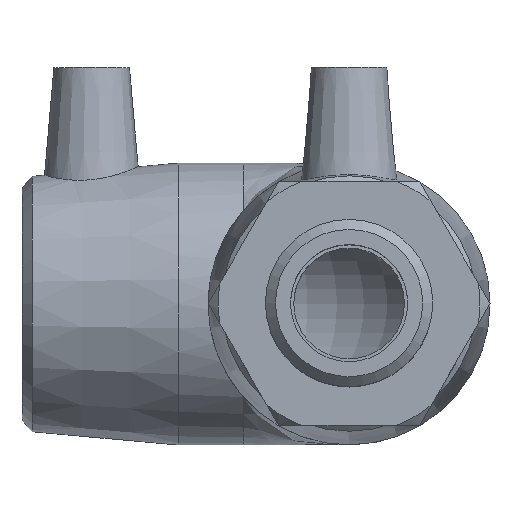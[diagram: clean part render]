
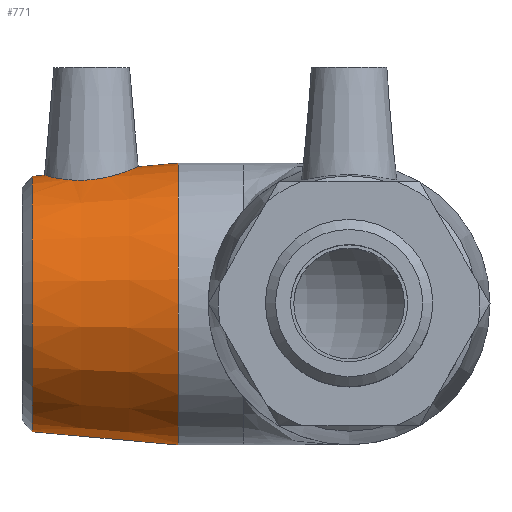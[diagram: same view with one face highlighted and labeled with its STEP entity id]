
A CAD part, top view. The second image highlights one B-rep face of the part: STEP entity #771.
In plain terms, the highlighted conical face has half-angle 5.161 degrees and reference radius 26.6 mm.
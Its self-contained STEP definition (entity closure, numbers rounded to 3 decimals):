
#17=B_SPLINE_CURVE_WITH_KNOTS('',3,(#1342,#1343,#1344,#1345,#1346,#1347,
#1348,#1349,#1350,#1351,#1352,#1353,#1354,#1355,#1356,#1357,#1358,#1359,
#1360,#1361,#1362,#1363,#1364,#1365,#1366,#1367,#1368,#1369,#1370,#1371,
#1372,#1373,#1374,#1375),.UNSPECIFIED.,.T.,.F.,(4,2,2,2,2,2,2,2,2,2,2,2,
2,2,2,2,4),(0.,0.346,0.692,1.041,1.389,
1.738,2.086,2.432,2.778,3.15,
3.522,3.885,4.248,4.611,4.974,
5.346,5.717),.UNSPECIFIED.);
#123=FACE_BOUND('',#248,.T.);
#124=FACE_BOUND('',#249,.T.);
#180=FACE_OUTER_BOUND('',#247,.T.);
#247=EDGE_LOOP('',(#642));
#248=EDGE_LOOP('',(#643));
#249=EDGE_LOOP('',(#644));
#333=CIRCLE('',#854,25.38);
#334=CIRCLE('',#856,28.);
#407=VERTEX_POINT('',#1336);
#408=VERTEX_POINT('',#1339);
#409=VERTEX_POINT('',#1341);
#501=EDGE_CURVE('',#407,#407,#333,.T.);
#502=EDGE_CURVE('',#408,#408,#334,.T.);
#503=EDGE_CURVE('',#409,#409,#17,.T.);
#642=ORIENTED_EDGE('',*,*,#502,.F.);
#643=ORIENTED_EDGE('',*,*,#503,.T.);
#644=ORIENTED_EDGE('',*,*,#501,.F.);
#738=CONICAL_SURFACE('',#855,26.6,5.161);
#771=ADVANCED_FACE('',(#180,#123,#124),#738,.T.);
#854=AXIS2_PLACEMENT_3D('',#1337,#1028,#1029);
#855=AXIS2_PLACEMENT_3D('',#1338,#1030,#1031);
#856=AXIS2_PLACEMENT_3D('',#1340,#1032,#1033);
#1028=DIRECTION('center_axis',(-1.,0.,0.));
#1029=DIRECTION('ref_axis',(0.,-1.,0.));
#1030=DIRECTION('center_axis',(1.,0.,0.));
#1031=DIRECTION('ref_axis',(0.,1.,0.));
#1032=DIRECTION('center_axis',(1.,0.,0.));
#1033=DIRECTION('ref_axis',(0.,0.,-1.));
#1336=CARTESIAN_POINT('',(-63.008,25.38,0.));
#1337=CARTESIAN_POINT('Origin',(-63.008,0.,0.));
#1338=CARTESIAN_POINT('Origin',(-49.5,0.,0.));
#1339=CARTESIAN_POINT('',(-34.,28.,0.));
#1340=CARTESIAN_POINT('Origin',(-34.,0.,0.));
#1341=CARTESIAN_POINT('',(-51.525,24.671,9.446));
#1342=CARTESIAN_POINT('Ctrl Pts',(-51.525,24.671,9.446));
#1343=CARTESIAN_POINT('Ctrl Pts',(-52.673,24.574,9.409));
#1344=CARTESIAN_POINT('Ctrl Pts',(-53.892,24.563,9.139));
#1345=CARTESIAN_POINT('Ctrl Pts',(-56.115,24.703,8.134));
#1346=CARTESIAN_POINT('Ctrl Pts',(-57.12,24.847,7.399));
#1347=CARTESIAN_POINT('Ctrl Pts',(-58.703,25.137,5.734));
#1348=CARTESIAN_POINT('Ctrl Pts',(-59.389,25.302,4.687));
#1349=CARTESIAN_POINT('Ctrl Pts',(-60.298,25.538,2.401));
#1350=CARTESIAN_POINT('Ctrl Pts',(-60.522,25.604,1.162));
#1351=CARTESIAN_POINT('Ctrl Pts',(-60.522,25.604,-1.162));
#1352=CARTESIAN_POINT('Ctrl Pts',(-60.298,25.538,-2.401));
#1353=CARTESIAN_POINT('Ctrl Pts',(-59.389,25.302,-4.687));
#1354=CARTESIAN_POINT('Ctrl Pts',(-58.703,25.137,-5.734));
#1355=CARTESIAN_POINT('Ctrl Pts',(-57.12,24.847,-7.399));
#1356=CARTESIAN_POINT('Ctrl Pts',(-56.115,24.703,-8.134));
#1357=CARTESIAN_POINT('Ctrl Pts',(-53.892,24.563,-9.139));
#1358=CARTESIAN_POINT('Ctrl Pts',(-52.673,24.574,-9.409));
#1359=CARTESIAN_POINT('Ctrl Pts',(-50.291,24.775,-9.486));
#1360=CARTESIAN_POINT('Ctrl Pts',(-48.99,24.99,-9.264));
#1361=CARTESIAN_POINT('Ctrl Pts',(-46.615,25.55,-8.306));
#1362=CARTESIAN_POINT('Ctrl Pts',(-45.54,25.888,-7.572));
#1363=CARTESIAN_POINT('Ctrl Pts',(-43.862,26.477,-5.888));
#1364=CARTESIAN_POINT('Ctrl Pts',(-43.137,26.768,-4.83));
#1365=CARTESIAN_POINT('Ctrl Pts',(-42.168,27.174,-2.491));
#1366=CARTESIAN_POINT('Ctrl Pts',(-41.925,27.284,-1.21));
#1367=CARTESIAN_POINT('Ctrl Pts',(-41.925,27.284,1.21));
#1368=CARTESIAN_POINT('Ctrl Pts',(-42.168,27.174,2.491));
#1369=CARTESIAN_POINT('Ctrl Pts',(-43.137,26.768,4.83));
#1370=CARTESIAN_POINT('Ctrl Pts',(-43.862,26.477,5.888));
#1371=CARTESIAN_POINT('Ctrl Pts',(-45.54,25.888,7.572));
#1372=CARTESIAN_POINT('Ctrl Pts',(-46.615,25.55,8.306));
#1373=CARTESIAN_POINT('Ctrl Pts',(-48.99,24.99,9.264));
#1374=CARTESIAN_POINT('Ctrl Pts',(-50.291,24.775,9.486));
#1375=CARTESIAN_POINT('Ctrl Pts',(-51.525,24.671,9.446));
